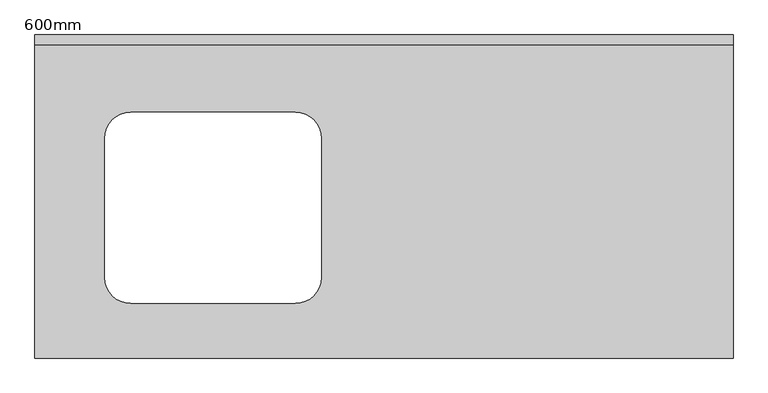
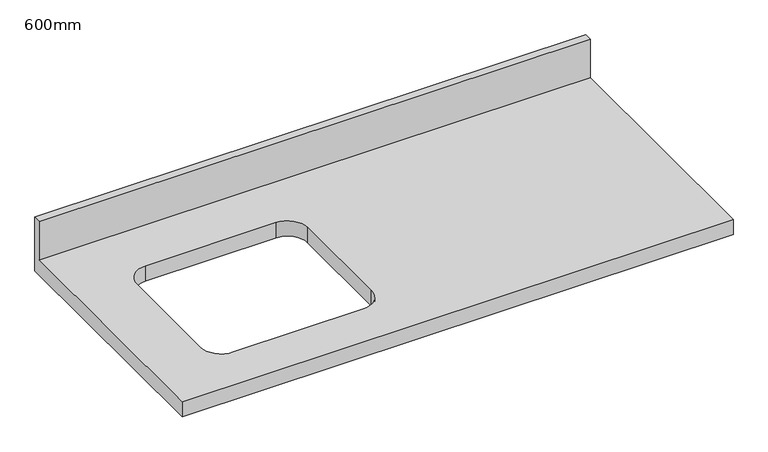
"""IFC4 building model written with IfcOpenShell, lengths in millimetres: furniture geometry, カウンタ シンク開口付 : 600mm."""

import ifcopenshell
import ifcopenshell.guid

model = None  # the IFC model being written
_history = None  # IfcOwnerHistory: only IFC2X3 demands one
_inside = {}  # id of a spatial element -> (the spatial element, [elements in it])
_under = {}  # id of a project, library or spatial element -> (it, [spatial elements below it])
_declared = {}  # id of a project -> (the project, [libraries it declares])
_typed = {}  # id of a type object -> (the type object, [elements of that type])
_made_of = {}  # id of a material, layer set ... -> (it, [elements and type objects made of it])


def new_model(schema):
    """Start an empty IFC model of exactly this schema.

    Asked for "IFC4X3", IfcOpenShell would pick the latest addendum, in which some entities
    have other attributes; the version numbers below select the first issue.
    IFC2X3 requires an IfcOwnerHistory on every rooted entity: one is made here for all.
    """
    global model, _history
    if schema == "IFC4X3":
        model = ifcopenshell.file(schema_version=(4, 3, 0, 0))
    else:
        model = ifcopenshell.file(schema=schema)
    _inside.clear()
    _under.clear()
    _declared.clear()
    _typed.clear()
    _made_of.clear()
    _history = None
    if model.schema == "IFC2X3":
        org = make("IfcOrganization", Name="unknown")
        user = make(
            "IfcPersonAndOrganization",
            ThePerson=make("IfcPerson", FamilyName="unknown"),
            TheOrganization=org,
        )
        app = make(
            "IfcApplication",
            ApplicationDeveloper=org,
            Version="unknown",
            ApplicationFullName="unknown",
            ApplicationIdentifier="unknown",
        )
        _history = make(
            "IfcOwnerHistory",
            OwningUser=user,
            OwningApplication=app,
            ChangeAction="ADDED",
            CreationDate=0,
        )
    return model


def make(cls, **values):
    """One entity of the class cls with the attributes given. An attribute that is None is left unset."""
    return model.create_entity(
        cls, **{name: value for name, value in values.items() if value is not None}
    )


def rooted(cls, **values):
    """An entity with a GlobalId (a new one), such as an element, a storey or a relation."""
    return make(cls, GlobalId=ifcopenshell.guid.new(), OwnerHistory=_history, **values)


def si_unit(unit_type, name, prefix=None):
    """IfcSIUnit, for example si_unit("LENGTHUNIT", "METRE", prefix="MILLI")."""
    return make("IfcSIUnit", UnitType=unit_type, Prefix=prefix, Name=name)


def assignment(units):
    """IfcUnitAssignment: the units of a project."""
    return None if units is None else make("IfcUnitAssignment", Units=units)


def point(xyz):
    """IfcCartesianPoint."""
    return None if xyz is None else make("IfcCartesianPoint", Coordinates=xyz)


def direction(xyz):
    """IfcDirection."""
    return None if xyz is None else make("IfcDirection", DirectionRatios=xyz)


def frame(location, z_axis=None, x_axis=None):
    """IfcAxis2Placement3D, a coordinate frame: its origin and axes. An axis left out is left unset."""
    return make(
        "IfcAxis2Placement3D",
        Location=point(location),
        Axis=direction(z_axis),
        RefDirection=direction(x_axis),
    )


def origin():
    """The frame at (0, 0, 0) with its axes left unset."""
    return frame((0.0, 0.0, 0.0))


def place(relative_to, where):
    """IfcLocalPlacement: puts the frame where relative to a parent placement (None: the world)."""
    return make(
        "IfcLocalPlacement", PlacementRelTo=relative_to, RelativePlacement=where
    )


def context(
    kind, dimensions, precision=None, world=None, true_north=None, identifier=None
):
    """IfcGeometricRepresentationContext, for example the 3D "Model" context."""
    return make(
        "IfcGeometricRepresentationContext",
        ContextIdentifier=identifier,
        ContextType=kind,
        CoordinateSpaceDimension=dimensions,
        Precision=precision,
        WorldCoordinateSystem=world,
        TrueNorth=true_north,
    )


def project(units=None, contexts=None):
    """IfcProject with its units and contexts."""
    return rooted(
        "IfcProject",
        Name="project",
        RepresentationContexts=contexts,
        UnitsInContext=assignment(units),
    )


def spatial(cls, under=None, at=None, **own):
    """A site, building, storey or space (cls), placed at a placement, below another one or the project."""
    s = rooted(cls, ObjectPlacement=at, **own)
    if under is not None:
        _under.setdefault(under.id(), (under, []))[1].append(s)
    return s


def polyline(points):
    """IfcPolyline through the points."""
    return make("IfcPolyline", Points=[point(p) for p in points])


def circle_curve(where, radius):
    """IfcCircle in the frame where."""
    return make("IfcCircle", Position=where, Radius=radius)


def shape(context_of_items, identifier, shape_type, items):
    """IfcShapeRepresentation: the items that make up one representation, for example the "Body"."""
    return make(
        "IfcShapeRepresentation",
        ContextOfItems=context_of_items,
        RepresentationIdentifier=identifier,
        RepresentationType=shape_type,
        Items=items,
    )


def source(mapping_origin, context_of_items, identifier, shape_type, items):
    """IfcRepresentationMap: a shape defined once, which mapped items show again and again."""
    return make(
        "IfcRepresentationMap",
        MappingOrigin=mapping_origin,
        MappedRepresentation=shape(context_of_items, identifier, shape_type, items),
    )


def transform(
    local_origin,
    x_axis=None,
    y_axis=None,
    z_axis=None,
    scale=None,
    scale2=None,
    scale3=None,
    uniform=True,
):
    """IfcCartesianTransformationOperator3D, or its non-uniform kind. x_axis, y_axis, z_axis: its Axis1, 2, 3."""
    if uniform:
        return make(
            "IfcCartesianTransformationOperator3D",
            Axis1=direction(x_axis),
            Axis2=direction(y_axis),
            LocalOrigin=point(local_origin),
            Scale=scale,
            Axis3=direction(z_axis),
        )
    return make(
        "IfcCartesianTransformationOperator3DnonUniform",
        Axis1=direction(x_axis),
        Axis2=direction(y_axis),
        LocalOrigin=point(local_origin),
        Scale=scale,
        Axis3=direction(z_axis),
        Scale2=scale2,
        Scale3=scale3,
    )


def mapped(mapping_source, mapping_target):
    """IfcMappedItem: shows the shape of a source again, moved by a transform."""
    return make(
        "IfcMappedItem", MappingSource=mapping_source, MappingTarget=mapping_target
    )


def made_of(thing, what):
    """Note that an element or type object is made of a material, layer set ...; save() writes the relation."""
    if what is not None:
        _made_of.setdefault(what.id(), (what, []))[1].append(thing)
    return thing


def element(
    cls,
    number,
    at=None,
    inside=None,
    cuts=None,
    type_object=None,
    material=None,
    context=None,
    identifier="Body",
    shape_type=None,
    held_by="IfcProductDefinitionShape",
    body=None,
    shapes=None,
    **own,
):
    """One element of the class cls, such as IfcWall. Its Tag is "e" and its number.

    at: its placement. inside: the storey or other place that contains it. cuts: it is an
    opening in that element (IfcRelVoidsElement). A single representation is given by context,
    identifier, shape_type and body (its items); several are given by shapes. held_by: the class
    of the entity that holds the representations. save() writes the other relations.
    """
    e = rooted(cls, Tag="e%d" % number, ObjectPlacement=at, **own)
    if body is not None:
        shapes = [shape(context, identifier, shape_type, body)]
    if shapes is not None:
        e.Representation = make(held_by, Representations=shapes)
    if inside is not None:
        _inside.setdefault(inside.id(), (inside, []))[1].append(e)
    if cuts is not None:
        rooted(
            "IfcRelVoidsElement", RelatingBuildingElement=cuts, RelatedOpeningElement=e
        )
    if type_object is not None:
        _typed.setdefault(type_object.id(), (type_object, []))[1].append(e)
    return made_of(e, material)


def aggregate(whole, parts):
    """IfcRelAggregates: a whole, such as a stair, and the parts it consists of."""
    return rooted("IfcRelAggregates", RelatingObject=whole, RelatedObjects=parts)


def save(model, path):
    """Write the relations noted so far, then the file.

    IfcRelAggregates (storeys below a building ...), IfcRelContainedInSpatialStructure (elements
    in a storey), IfcRelDefinesByType, IfcRelAssociatesMaterial and IfcRelDeclares: one each for
    every whole, place, type object, material and project.
    """
    for whole, parts in _under.values():
        aggregate(whole, parts)
    for where, things in _inside.values():
        rooted(
            "IfcRelContainedInSpatialStructure",
            RelatedElements=things,
            RelatingStructure=where,
        )
    for kind, things in _typed.values():
        rooted("IfcRelDefinesByType", RelatedObjects=things, RelatingType=kind)
    for what, things in _made_of.values():
        rooted("IfcRelAssociatesMaterial", RelatedObjects=things, RelatingMaterial=what)
    for by, libraries in _declared.values():
        rooted("IfcRelDeclares", RelatingContext=by, RelatedDefinitions=libraries)
    model.write(path)


def plane_surface(at):
    """IfcPlane: the flat surface through the origin of the frame at, square to its z axis."""
    return make("IfcPlane", Position=at)


def revolved_surface(curve, axis_point, axis_direction):
    """IfcSurfaceOfRevolution: the curve turned about the line through axis_point along axis_direction."""
    return make(
        "IfcSurfaceOfRevolution",
        SweptCurve=make("IfcArbitraryOpenProfileDef", ProfileType="CURVE", Curve=curve),
        AxisPosition=make("IfcAxis1Placement", Location=point(axis_point), Axis=direction(axis_direction)),
    )


def advanced_brep(points, edges, surfaces, faces):
    """IfcAdvancedBrep: a solid bounded by faces that lie on surfaces and meet in shared edges.

    An edge is (start, end): straight between two places in points (the first is 0);
    or (start, end, curve); or (start, end, curve, False) where it runs against its curve.
    A face is (place in surfaces, loops), or (place, loops, False) where it looks against
    its surface's normal. A loop lists edges by number (the first is 1), with a minus sign
    where the edge is run from its end to its start. The first loop is the outer one.
    """
    corners = [point(p) for p in points]
    vertices = [make("IfcVertexPoint", VertexGeometry=c) for c in corners]
    made = []
    for start, end, *more in edges:
        made.append(
            make(
                "IfcEdgeCurve",
                EdgeStart=vertices[start],
                EdgeEnd=vertices[end],
                EdgeGeometry=more[0] if more else make("IfcPolyline", Points=[corners[start], corners[end]]),
                SameSense=more[1] if len(more) > 1 else True,
            )
        )
    hull = []
    for where, loops, *sense in faces:
        bounds = []
        for j, loop in enumerate(loops):
            ring = [make("IfcOrientedEdge", EdgeElement=made[abs(k) - 1], Orientation=k > 0) for k in loop]
            bounds.append(
                make(
                    "IfcFaceOuterBound" if j == 0 else "IfcFaceBound",
                    Bound=make("IfcEdgeLoop", EdgeList=ring),
                    Orientation=True,
                )
            )
        hull.append(make("IfcAdvancedFace", Bounds=bounds, FaceSurface=surfaces[where], SameSense=sense[0] if sense else True))
    return make("IfcAdvancedBrep", Outer=make("IfcClosedShell", CfsFaces=hull))


def furniture_600mm_61525606(model_context):
    return source(origin(), model_context, "Body", "AdvancedBrep", [
        advanced_brep(
        [(-1200.4622951, -635.0, 900.0), (171.5377049, -635.0, 900.0), (171.5377049, -19.05, 900.0), (-1200.4622951, -19.05, 900.0), (-1012.3622951, -152.3, 900.0), (-688.5622951, -152.3, 900.0), (-637.7622951, -203.1, 900.0), (-637.7622951, -476.9, 900.0), (-688.5622951, -527.7, 900.0), (-1012.3622951, -527.7, 900.0), (-1063.1622951, -476.9, 900.0), (-1063.1622951, -203.1, 900.0), (171.5377049, 0.0, 860.0), (171.5377049, -635.0, 860.0), (-1200.4622951, -635.0, 860.0), (-1200.4622951, 0.0, 860.0), (-688.5622951, -152.3, 860.0), (-1012.3622951, -152.3, 860.0), (-1063.1622951, -203.1, 860.0), (-1063.1622951, -476.9, 860.0), (-1012.3622951, -527.7, 860.0), (-688.5622951, -527.7, 860.0), (-637.7622951, -476.9, 860.0), (-637.7622951, -203.1, 860.0), (-1200.4622951, 0.0, 1001.6), (171.5377049, 0.0, 1001.6), (-1200.4622951, -19.05, 1001.6), (171.5377049, -19.05, 1001.6)],
        [
            (0, 1),
            (1, 2),
            (2, 3),
            (3, 0),
            (4, 5),
            (5, 6, circle_curve(frame((-688.5622951, -203.1, 900.0), z_axis=(0.0, 0.0, -1.0), x_axis=(1.0, 0.0, 0.0)), 50.8)),
            (6, 7),
            (7, 8, circle_curve(frame((-688.5622951, -476.9, 900.0), z_axis=(0.0, 0.0, -1.0), x_axis=(1.0, 0.0, 0.0)), 50.8)),
            (8, 9),
            (9, 10, circle_curve(frame((-1012.3622951, -476.9, 900.0), z_axis=(0.0, 0.0, -1.0), x_axis=(1.0, 0.0, 0.0)), 50.8)),
            (10, 11),
            (11, 4, circle_curve(frame((-1012.3622951, -203.1, 900.0), z_axis=(0.0, 0.0, -1.0), x_axis=(1.0, 0.0, 0.0)), 50.8)),
            (12, 13),
            (13, 14),
            (14, 15),
            (15, 12),
            (16, 17),
            (17, 18, circle_curve(frame((-1012.3622951, -203.1, 860.0), z_axis=(0.0, 0.0, 1.0), x_axis=(1.0, 0.0, 0.0)), 50.8)),
            (18, 19),
            (19, 20, circle_curve(frame((-1012.3622951, -476.9, 860.0), z_axis=(0.0, 0.0, 1.0), x_axis=(1.0, 0.0, 0.0)), 50.8)),
            (20, 21),
            (21, 22, circle_curve(frame((-688.5622951, -476.9, 860.0), z_axis=(0.0, 0.0, 1.0), x_axis=(1.0, 0.0, 0.0)), 50.8)),
            (22, 23),
            (23, 16, circle_curve(frame((-688.5622951, -203.1, 860.0), z_axis=(0.0, 0.0, 1.0), x_axis=(1.0, 0.0, 0.0)), 50.8)),
            (15, 24),
            (24, 25),
            (25, 12),
            (14, 0),
            (3, 26),
            (26, 24),
            (13, 1),
            (25, 27),
            (27, 2),
            (26, 27),
            (4, 17),
            (16, 5),
            (11, 18),
            (10, 19),
            (9, 20),
            (8, 21),
            (7, 22),
            (6, 23),
        ],
        [
            plane_surface(frame((-1200.4622951, 0.0, 900.0), z_axis=(0.0, 0.0, 1.0), x_axis=(-1.0, 0.0, 0.0))),
            plane_surface(frame((-1200.4622951, 0.0, 860.0), z_axis=(0.0, 0.0, -1.0), x_axis=(1.0, 0.0, 0.0))),
            plane_surface(frame((171.5377049, 0.0, 900.0), z_axis=(0.0, 1.0, 0.0), x_axis=(0.0, 0.0, -1.0))),
            plane_surface(frame((-1200.4622951, 0.0, 900.0), z_axis=(-1.0, 0.0, 0.0), x_axis=(0.0, 0.0, -1.0))),
            plane_surface(frame((-1200.4622951, -635.0, 900.0), z_axis=(0.0, -1.0, 0.0), x_axis=(0.0, 0.0, -1.0))),
            plane_surface(frame((171.5377049, -635.0, 900.0), z_axis=(1.0, 0.0, 0.0), x_axis=(0.0, 0.0, -1.0))),
            plane_surface(frame((-1200.4622951, 0.0, 1001.6), z_axis=(0.0, 0.0, 1.0), x_axis=(0.0, -1.0, 0.0))),
            plane_surface(frame((-1200.4622951, -19.05, 1001.6), z_axis=(0.0, -1.0, 0.0), x_axis=(0.0, 0.0, -1.0))),
            plane_surface(frame((-688.5622951, -152.3, 900.0), z_axis=(0.0, -1.0, 0.0), x_axis=(0.0, 0.0, -1.0))),
            revolved_surface(polyline([(-961.5622951, -203.1, 900.0), (-961.5622951, -203.1, 860.0)]), (-1012.3622951, -203.1, 860.0), (0.0, 0.0, 1.0)),
            plane_surface(frame((-1063.1622951, -203.1, 900.0), z_axis=(1.0, 0.0, 0.0), x_axis=(0.0, 0.0, -1.0))),
            revolved_surface(polyline([(-961.5622951, -476.9, 900.0), (-961.5622951, -476.9, 860.0)]), (-1012.3622951, -476.9, 860.0), (0.0, 0.0, 1.0)),
            plane_surface(frame((-1012.3622951, -527.7, 900.0), z_axis=(0.0, 1.0, 0.0), x_axis=(0.0, 0.0, -1.0))),
            revolved_surface(polyline([(-637.7622951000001, -476.9, 900.0), (-637.7622951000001, -476.9, 860.0)]), (-688.5622951, -476.9, 860.0), (0.0, 0.0, 1.0)),
            plane_surface(frame((-637.7622951, -476.9, 900.0), z_axis=(-1.0, 0.0, 0.0), x_axis=(0.0, 0.0, -1.0))),
            revolved_surface(polyline([(-637.7622951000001, -203.1, 900.0), (-637.7622951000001, -203.1, 860.0)]), (-688.5622951, -203.1, 860.0), (0.0, 0.0, 1.0)),
        ],
        [
            (0, [[1, 2, 3, 4], [5, 6, 7, 8, 9, 10, 11, 12]]),
            (1, [[13, 14, 15, 16], [17, 18, 19, 20, 21, 22, 23, 24]]),
            (2, [[-16, 25, 26, 27]]),
            (3, [[-15, 28, -4, 29, 30, -25]]),
            (4, [[-1, -28, -14, 31]]),
            (5, [[-13, -27, 32, 33, -2, -31]]),
            (6, [[-30, 34, -32, -26]]),
            (7, [[-34, -29, -3, -33]]),
            (8, [[35, -17, 36, -5]]),
            (9, [[-35, -12, 37, -18]]),
            (10, [[-37, -11, 38, -19]]),
            (11, [[-38, -10, 39, -20]]),
            (12, [[-39, -9, 40, -21]]),
            (13, [[-40, -8, 41, -22]]),
            (14, [[-41, -7, 42, -23]]),
            (15, [[-36, -24, -42, -6]]),
        ],
    ),
    ])


if __name__ == "__main__":
    model = new_model("IFC4")
    model_context = context("Model", 3, world=origin())
    ifc_project = project(units=[si_unit("LENGTHUNIT", "METRE", prefix="MILLI")], contexts=[model_context])
    site = spatial("IfcSite", under=ifc_project)
    building = spatial("IfcBuilding", under=site)
    placement = place(None, origin())
    furniture_600mm_shape = furniture_600mm_61525606(model_context)
    element("IfcFurniture", 1, ObjectType="カウンタ シンク開口付 : 600mm", at=placement, inside=building, context=model_context, shape_type="MappedRepresentation", body=[
        mapped(furniture_600mm_shape, transform((0.0, 0.0, 0.0), x_axis=(1.0, 0.0, 0.0), y_axis=(0.0, 1.0, 0.0), z_axis=(0.0, 0.0, 1.0))),
    ])
    save(model, "model.ifc")
